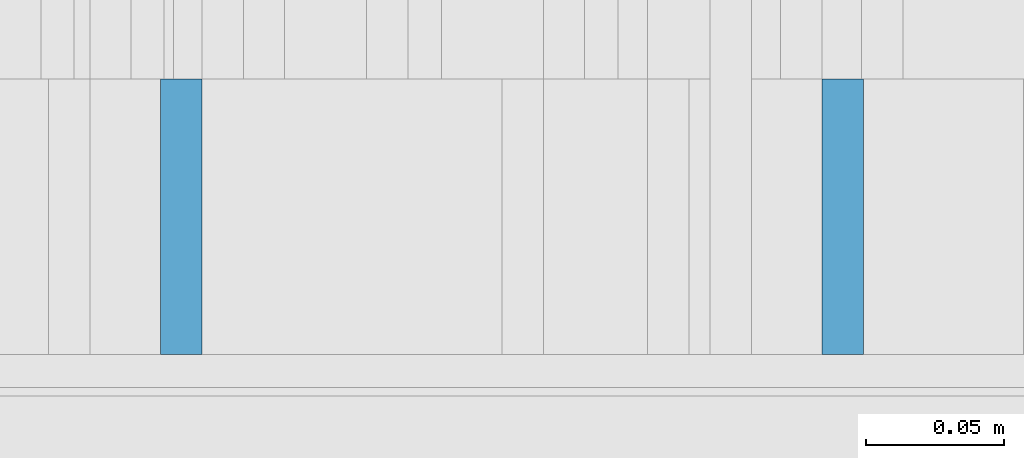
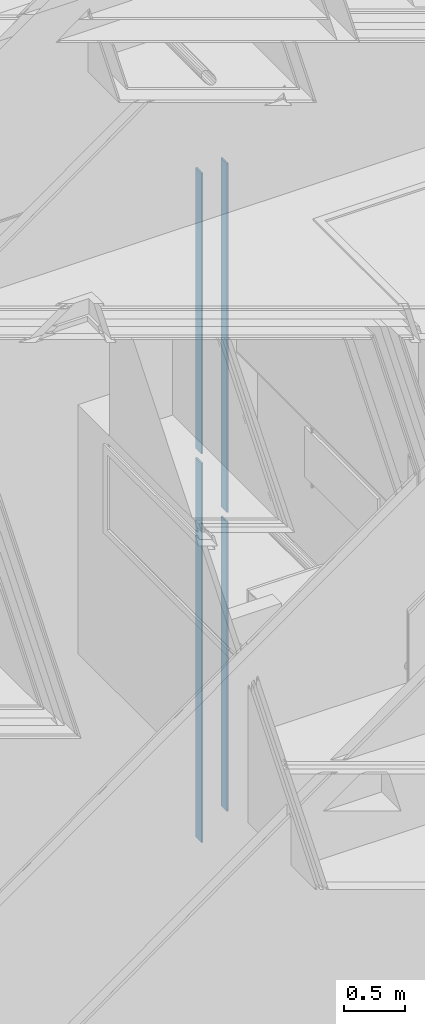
# One storey, part 115 of 583: 4 building element parts, 1 element without a shape of its own.
"""IFC2X3 building model written with IfcOpenShell, lengths in metres."""

from ifc_helpers import new_model, entity, si_unit, converted_unit, derived_unit, money_unit, direction, frame, frame_2d, origin_with_axes, place, context, subcontext, project, spatial, rectangle, extrude, material, type_object, element, aggregate, save


model = new_model("IFC2X3")

# Units and contexts
model_context = context("Model", 3, precision=1e-05, world=origin_with_axes(), true_north=direction((0.0, 1.0)))
body_context = subcontext(model_context, "Body", "Model", "MODEL_VIEW", scale=1.0)
ifc_project = project(units=[si_unit("LENGTHUNIT", "METRE"), si_unit("AREAUNIT", "SQUARE_METRE"), si_unit("VOLUMEUNIT", "CUBIC_METRE"), si_unit("ABSORBEDDOSEUNIT", "GRAY"), si_unit("AMOUNTOFSUBSTANCEUNIT", "MOLE"), si_unit("DOSEEQUIVALENTUNIT", "SIEVERT"), si_unit("ELECTRICCAPACITANCEUNIT", "FARAD"), si_unit("ELECTRICCHARGEUNIT", "COULOMB"), si_unit("ELECTRICCONDUCTANCEUNIT", "SIEMENS"), si_unit("ELECTRICCURRENTUNIT", "AMPERE"), si_unit("ELECTRICRESISTANCEUNIT", "OHM"), si_unit("ELECTRICVOLTAGEUNIT", "VOLT"), si_unit("ENERGYUNIT", "JOULE"), si_unit("FORCEUNIT", "NEWTON"), si_unit("FREQUENCYUNIT", "HERTZ"), si_unit("ILLUMINANCEUNIT", "LUX"), si_unit("INDUCTANCEUNIT", "HENRY"), si_unit("LUMINOUSFLUXUNIT", "LUMEN"), si_unit("LUMINOUSINTENSITYUNIT", "CANDELA"), si_unit("MAGNETICFLUXDENSITYUNIT", "TESLA"), si_unit("MAGNETICFLUXUNIT", "WEBER"), si_unit("MASSUNIT", "GRAM"), converted_unit("PLANEANGLEUNIT", "degree", entity("IfcReal", 0.0174532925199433), si_unit("PLANEANGLEUNIT", "RADIAN"), dimensions=[0, 0, 0, 0, 0, 0, 0]), si_unit("POWERUNIT", "WATT"), si_unit("PRESSUREUNIT", "PASCAL"), si_unit("RADIOACTIVITYUNIT", "BECQUEREL"), si_unit("SOLIDANGLEUNIT", "STERADIAN"), si_unit("THERMODYNAMICTEMPERATUREUNIT", "KELVIN"), si_unit("TIMEUNIT", "SECOND"), derived_unit("ACCELERATIONUNIT", [(si_unit("LENGTHUNIT", "METRE"), 1), (si_unit("TIMEUNIT", "SECOND"), -2)]), derived_unit("ANGULARVELOCITYUNIT", [(converted_unit("PLANEANGLEUNIT", "degree", entity("IfcReal", 0.0174532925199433), si_unit("PLANEANGLEUNIT", "RADIAN"), dimensions=[0, 0, 0, 0, 0, 0, 0]), 1), (si_unit("TIMEUNIT", "SECOND"), -1)]), derived_unit("CURVATUREUNIT", [(converted_unit("PLANEANGLEUNIT", "degree", entity("IfcReal", 0.0174532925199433), si_unit("PLANEANGLEUNIT", "RADIAN"), dimensions=[0, 0, 0, 0, 0, 0, 0]), 1), (si_unit("LENGTHUNIT", "METRE"), -1)]), derived_unit("DYNAMICVISCOSITYUNIT", [(si_unit("PRESSUREUNIT", "PASCAL"), 1), (si_unit("TIMEUNIT", "SECOND"), 1)]), derived_unit("HEATFLUXDENSITYUNIT", [(si_unit("POWERUNIT", "WATT"), 1), (si_unit("LENGTHUNIT", "METRE"), -2)]), derived_unit("HEATINGVALUEUNIT", [(si_unit("ENERGYUNIT", "JOULE"), 1), (si_unit("MASSUNIT", "GRAM"), -1)]), derived_unit("INTEGERCOUNTRATEUNIT", [(si_unit("TIMEUNIT", "SECOND"), -1)]), derived_unit("IONCONCENTRATIONUNIT", [(si_unit("MASSUNIT", "GRAM"), 1), (si_unit("VOLUMEUNIT", "CUBIC_METRE"), -1)]), derived_unit("ISOTHERMALMOISTURECAPACITYUNIT", [(si_unit("VOLUMEUNIT", "CUBIC_METRE"), 1), (si_unit("MASSUNIT", "GRAM"), -1)]), derived_unit("KINEMATICVISCOSITYUNIT", [(si_unit("AREAUNIT", "SQUARE_METRE"), 1), (si_unit("TIMEUNIT", "SECOND"), -1)]), derived_unit("LINEARFORCEUNIT", [(si_unit("FORCEUNIT", "NEWTON"), 1), (si_unit("LENGTHUNIT", "METRE"), -1)]), derived_unit("LINEARMOMENTUNIT", [(si_unit("FORCEUNIT", "NEWTON"), 1), (si_unit("LENGTHUNIT", "METRE"), -1)]), derived_unit("LINEARSTIFFNESSUNIT", [(si_unit("FORCEUNIT", "NEWTON"), 1), (si_unit("LENGTHUNIT", "METRE"), -1)]), derived_unit("LINEARVELOCITYUNIT", [(si_unit("LENGTHUNIT", "METRE"), 1), (si_unit("TIMEUNIT", "SECOND"), -1)]), derived_unit("LUMINOUSINTENSITYDISTRIBUTIONUNIT", [(si_unit("LUMINOUSINTENSITYUNIT", "CANDELA"), 1), (si_unit("LUMINOUSFLUXUNIT", "LUMEN"), -1)]), derived_unit("MASSDENSITYUNIT", [(si_unit("MASSUNIT", "GRAM"), 1), (si_unit("VOLUMEUNIT", "CUBIC_METRE"), -1)]), derived_unit("MASSFLOWRATEUNIT", [(si_unit("MASSUNIT", "GRAM"), 1), (si_unit("TIMEUNIT", "SECOND"), -1)]), derived_unit("MASSPERLENGTHUNIT", [(si_unit("MASSUNIT", "GRAM"), 1), (si_unit("LENGTHUNIT", "METRE"), -1)]), derived_unit("MODULUSOFELASTICITYUNIT", [(si_unit("FORCEUNIT", "NEWTON"), 1), (si_unit("AREAUNIT", "SQUARE_METRE"), -1)]), derived_unit("MODULUSOFLINEARSUBGRADEREACTIONUNIT", [(si_unit("FORCEUNIT", "NEWTON"), 1), (si_unit("LENGTHUNIT", "METRE"), -2)]), derived_unit("MODULUSOFROTATIONALSUBGRADEREACTIONUNIT", [(si_unit("FORCEUNIT", "NEWTON"), 1), (si_unit("LENGTHUNIT", "METRE"), 1)]), derived_unit("MODULUSOFSUBGRADEREACTIONUNIT", [(si_unit("FORCEUNIT", "NEWTON"), 1), (si_unit("VOLUMEUNIT", "CUBIC_METRE"), -1)]), derived_unit("MOISTUREDIFFUSIVITYUNIT", [(si_unit("VOLUMEUNIT", "CUBIC_METRE"), 1), (si_unit("TIMEUNIT", "SECOND"), -1)]), derived_unit("MOLECULARWEIGHTUNIT", [(si_unit("MASSUNIT", "GRAM"), 1), (si_unit("AMOUNTOFSUBSTANCEUNIT", "MOLE"), -1)]), derived_unit("PLANARFORCEUNIT", [(si_unit("FORCEUNIT", "NEWTON"), 1), (si_unit("LENGTHUNIT", "METRE"), -2)]), derived_unit("ROTATIONALFREQUENCYUNIT", [(si_unit("TIMEUNIT", "SECOND"), -1)]), derived_unit("ROTATIONALMASSUNIT", [(si_unit("MASSUNIT", "GRAM"), 1), (si_unit("LENGTHUNIT", "METRE"), 2)]), derived_unit("ROTATIONALSTIFFNESSUNIT", [(si_unit("FORCEUNIT", "NEWTON"), 1), (si_unit("LENGTHUNIT", "METRE"), 1), (converted_unit("PLANEANGLEUNIT", "degree", entity("IfcReal", 0.0174532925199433), si_unit("PLANEANGLEUNIT", "RADIAN"), dimensions=[0, 0, 0, 0, 0, 0, 0]), -1)]), derived_unit("SECTIONAREAINTEGRALUNIT", [(si_unit("LENGTHUNIT", "METRE"), 5)]), derived_unit("SECTIONMODULUSUNIT", [(si_unit("LENGTHUNIT", "METRE"), 3)]), derived_unit("SHEARMODULUSUNIT", [(si_unit("FORCEUNIT", "NEWTON"), 1), (si_unit("AREAUNIT", "SQUARE_METRE"), -1)]), derived_unit("SOUNDPOWERUNIT", [(si_unit("ENERGYUNIT", "JOULE"), 1), (si_unit("TIMEUNIT", "SECOND"), -1)]), derived_unit("SPECIFICHEATCAPACITYUNIT", [(si_unit("FORCEUNIT", "NEWTON"), 1), (si_unit("MASSUNIT", "GRAM"), -1), (si_unit("THERMODYNAMICTEMPERATUREUNIT", "KELVIN"), -1)]), derived_unit("TEMPERATUREGRADIENTUNIT", [(si_unit("THERMODYNAMICTEMPERATUREUNIT", "KELVIN"), 1), (si_unit("LENGTHUNIT", "METRE"), -1)]), derived_unit("THERMALADMITTANCEUNIT", [(si_unit("POWERUNIT", "WATT"), 1), (si_unit("AREAUNIT", "SQUARE_METRE"), -1), (si_unit("THERMODYNAMICTEMPERATUREUNIT", "KELVIN"), -1)]), derived_unit("THERMALCONDUCTANCEUNIT", [(si_unit("POWERUNIT", "WATT"), 1), (si_unit("LENGTHUNIT", "METRE"), -1), (si_unit("THERMODYNAMICTEMPERATUREUNIT", "KELVIN"), -1)]), derived_unit("THERMALEXPANSIONCOEFFICIENTUNIT", [(si_unit("THERMODYNAMICTEMPERATUREUNIT", "KELVIN"), -1)]), derived_unit("THERMALRESISTANCEUNIT", [(si_unit("AREAUNIT", "SQUARE_METRE"), 1), (si_unit("POWERUNIT", "WATT"), -1)]), derived_unit("THERMALTRANSMITTANCEUNIT", [(si_unit("POWERUNIT", "WATT"), 1), (si_unit("AREAUNIT", "SQUARE_METRE"), -1), (si_unit("THERMODYNAMICTEMPERATUREUNIT", "KELVIN"), -1)]), derived_unit("TORQUEUNIT", [(si_unit("FORCEUNIT", "NEWTON"), 1), (si_unit("LENGTHUNIT", "METRE"), 1)]), derived_unit("VAPORPERMEABILITYUNIT", [(si_unit("MASSUNIT", "GRAM"), 1), (si_unit("TIMEUNIT", "SECOND"), -1)]), derived_unit("VOLUMETRICFLOWRATEUNIT", [(si_unit("VOLUMEUNIT", "CUBIC_METRE"), 1), (si_unit("TIMEUNIT", "SECOND"), -1)]), derived_unit("WARPINGCONSTANTUNIT", [(si_unit("LENGTHUNIT", "METRE"), 6)]), derived_unit("WARPINGMOMENTUNIT", [(si_unit("FORCEUNIT", "NEWTON"), 1), (si_unit("LENGTHUNIT", "METRE"), 2)]), money_unit("GBP")], contexts=[model_context])

# Site, building, storey
site_placement = place(None, origin_with_axes())
site = spatial("IfcSite", under=ifc_project, at=site_placement, Name="Site", CompositionType="ELEMENT")
building_placement = place(site_placement, origin_with_axes())
building = spatial("IfcBuilding", under=site, at=building_placement, Name="Building01", CompositionType="ELEMENT")
storey_placement = place(building_placement, frame((0.0, 0.0, 20.78), z_axis=(0.0, 0.0, 1.0), x_axis=(1.0, 0.0, 0.0)))
storey = spatial("IfcBuildingStorey", under=building, at=storey_placement, Name="RL", CompositionType="ELEMENT", Elevation=20.78)

# Wall, building element parts
wall_type = type_object("IfcWallType", Name="SHE_A-Walls_Type01c_Partywall_225mm_twin_tall", PredefinedType="NOTDEFINED")
wall_placement = place(storey_placement, frame((8.34767, 12.13, -13.628331), z_axis=(0.0, 1.0, 0.0), x_axis=(0.0, 0.0, -1.0)))
wall = element("IfcWall", 1, at=wall_placement, inside=storey, type_object=wall_type, Name="1C", ObjectType="SHE_A-Walls_Type01c_Partywall_225mm_twin_tall")
ifc_material = material(Name="A_BSUK_Walls_Timber")
placement = place(wall_placement, origin_with_axes())
building_element_part_1 = element("IfcBuildingElementPart", 2, at=placement, material=ifc_material, Name="2", context=body_context, shape_type="SweptSolid", body=[
    extrude(rectangle(XDim=2.808939, YDim=0.015, at=frame_2d((1.506469, 0.1445), x_axis=(-1.0, 0.0))), frame((0.0, 0.0, 0.015), z_axis=(0.0, 0.0, 1.0), x_axis=(1.0, 0.0, 0.0)), (0.0, 0.0, 1.0), 0.1),
])
building_element_part_2 = element("IfcBuildingElementPart", 3, at=placement, material=ifc_material, Name="7", context=body_context, shape_type="SweptSolid", body=[
    extrude(rectangle(XDim=3.495, YDim=0.015, at=frame_2d((1.8345, -0.0955), x_axis=(-1.0, 0.0))), frame((0.0, 0.0, 0.015), z_axis=(0.0, 0.0, 1.0), x_axis=(1.0, 0.0, 0.0)), (0.0, 0.0, 1.0), 0.1),
])
building_element_part_3 = element("IfcBuildingElementPart", 4, at=placement, material=ifc_material, Name="8", context=body_context, shape_type="SweptSolid", body=[
    extrude(rectangle(XDim=0.015, YDim=2.897491, at=frame_2d((5.125745, -0.0955), x_axis=(0.0, -1.0))), frame((0.0, 0.0, 0.015), z_axis=(0.0, 0.0, 1.0), x_axis=(1.0, 0.0, 0.0)), (0.0, 0.0, 1.0), 0.1),
])
building_element_part_4 = element("IfcBuildingElementPart", 5, at=placement, material=ifc_material, Name="9", context=body_context, shape_type="SweptSolid", body=[
    extrude(rectangle(XDim=0.015, YDim=3.79773, at=frame_2d((4.904804, 0.1445), x_axis=(0.0, -1.0))), frame((0.0, 0.0, 0.015), z_axis=(0.0, 0.0, 1.0), x_axis=(1.0, 0.0, 0.0)), (0.0, 0.0, 1.0), 0.1),
])
aggregate(wall, [building_element_part_1, building_element_part_2, building_element_part_3, building_element_part_4])

save(model, "model.ifc")
